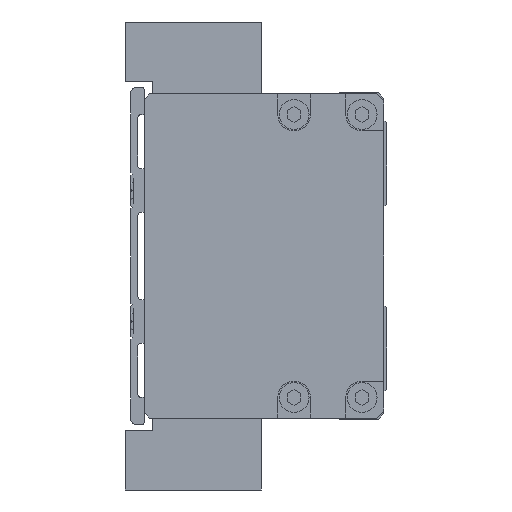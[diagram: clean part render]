
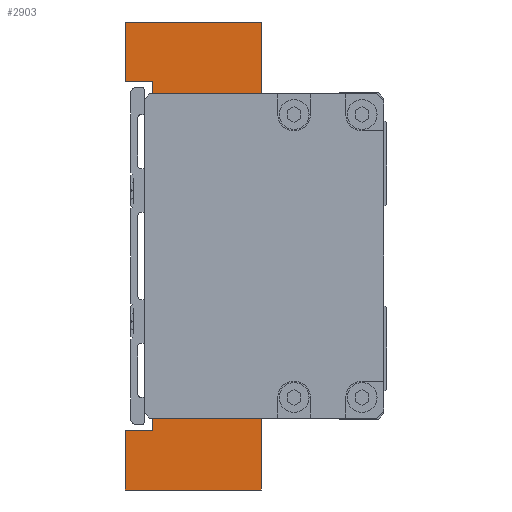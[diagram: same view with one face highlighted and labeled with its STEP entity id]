
A CAD part, left-side view. The second image highlights one B-rep face of the part: STEP entity #2903.
In plain terms, the highlighted planar face has unit normal (-1, 0, 0).
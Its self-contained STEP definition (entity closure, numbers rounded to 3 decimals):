
#180 = DIRECTION ( 'NONE',  ( 0., 0., -1. ) ) ;
#192 = ORIENTED_EDGE ( 'NONE', *, *, #7165, .F. ) ;
#601 = ORIENTED_EDGE ( 'NONE', *, *, #11513, .F. ) ;
#634 = ORIENTED_EDGE ( 'NONE', *, *, #23904, .T. ) ;
#881 = ORIENTED_EDGE ( 'NONE', *, *, #5717, .F. ) ;
#919 = DIRECTION ( 'NONE',  ( 0., -1., 0. ) ) ;
#1082 = DIRECTION ( 'NONE',  ( 1., 0., 0. ) ) ;
#1232 = ORIENTED_EDGE ( 'NONE', *, *, #18942, .F. ) ;
#1370 = DIRECTION ( 'NONE',  ( 0., -1., 0. ) ) ;
#1460 = VERTEX_POINT ( 'NONE', #17668 ) ;
#1872 = CARTESIAN_POINT ( 'NONE',  ( -77., 25., -43. ) ) ;
#1944 = EDGE_CURVE ( 'NONE', #9077, #16507, #5160, .T. ) ;
#2025 = DIRECTION ( 'NONE',  ( 0., -1., 0. ) ) ;
#2293 = DIRECTION ( 'NONE',  ( 0., -1., 0. ) ) ;
#2533 = LINE ( 'NONE', #5616, #24929 ) ;
#2539 = DIRECTION ( 'NONE',  ( 0., 1., 0. ) ) ;
#2561 = CARTESIAN_POINT ( 'NONE',  ( -77., 25., 43. ) ) ;
#2564 = DIRECTION ( 'NONE',  ( 0., 0., 1. ) ) ;
#2615 = DIRECTION ( 'NONE',  ( 0., -1., 0. ) ) ;
#2688 = VERTEX_POINT ( 'NONE', #24389 ) ;
#2693 = LINE ( 'NONE', #10700, #10220 ) ;
#2903 = ADVANCED_FACE ( 'NONE', ( #19281 ), #23487, .F. ) ;
#3149 = VERTEX_POINT ( 'NONE', #8440 ) ;
#3537 = DIRECTION ( 'NONE',  ( 0., 0., -1. ) ) ;
#3877 = CARTESIAN_POINT ( 'NONE',  ( -77., 5., 21. ) ) ;
#3962 = VERTEX_POINT ( 'NONE', #23979 ) ;
#4200 = CARTESIAN_POINT ( 'NONE',  ( -77., 0., -28. ) ) ;
#4305 = ORIENTED_EDGE ( 'NONE', *, *, #19172, .T. ) ;
#5160 = LINE ( 'NONE', #21825, #11434 ) ;
#5174 = VECTOR ( 'NONE', #2293, 1000. ) ;
#5201 = ORIENTED_EDGE ( 'NONE', *, *, #13155, .F. ) ;
#5616 = CARTESIAN_POINT ( 'NONE',  ( -77., 10., 21. ) ) ;
#5694 = CARTESIAN_POINT ( 'NONE',  ( -77., 10., 21. ) ) ;
#5717 = EDGE_CURVE ( 'NONE', #3962, #2688, #22277, .T. ) ;
#5719 = LINE ( 'NONE', #20189, #24011 ) ;
#5774 = LINE ( 'NONE', #19015, #12409 ) ;
#5834 = ORIENTED_EDGE ( 'NONE', *, *, #19022, .F. ) ;
#6485 = LINE ( 'NONE', #24862, #22577 ) ;
#6536 = VERTEX_POINT ( 'NONE', #8898 ) ;
#6540 = ORIENTED_EDGE ( 'NONE', *, *, #14546, .T. ) ;
#6593 = CARTESIAN_POINT ( 'NONE',  ( -77., 5., -28. ) ) ;
#6677 = DIRECTION ( 'NONE',  ( 0., 1., 0. ) ) ;
#6834 = DIRECTION ( 'NONE',  ( 0., 1., 0. ) ) ;
#7120 = VERTEX_POINT ( 'NONE', #2561 ) ;
#7165 = EDGE_CURVE ( 'NONE', #16507, #15431, #6485, .T. ) ;
#7682 = EDGE_CURVE ( 'NONE', #1460, #14643, #18446, .T. ) ;
#8440 = CARTESIAN_POINT ( 'NONE',  ( -77., 0., -43. ) ) ;
#8525 = DIRECTION ( 'NONE',  ( 0., 0., -1. ) ) ;
#8532 = CARTESIAN_POINT ( 'NONE',  ( -77., 20., -32. ) ) ;
#8539 = CARTESIAN_POINT ( 'NONE',  ( -77., 0., 43. ) ) ;
#8598 = CARTESIAN_POINT ( 'NONE',  ( -77., 5., -21. ) ) ;
#8807 = ORIENTED_EDGE ( 'NONE', *, *, #21676, .F. ) ;
#8898 = CARTESIAN_POINT ( 'NONE',  ( -77., 9., 21. ) ) ;
#8933 = ORIENTED_EDGE ( 'NONE', *, *, #17370, .F. ) ;
#9077 = VERTEX_POINT ( 'NONE', #20692 ) ;
#9807 = LINE ( 'NONE', #19286, #14587 ) ;
#9952 = EDGE_CURVE ( 'NONE', #25869, #25284, #5719, .T. ) ;
#9996 = CARTESIAN_POINT ( 'NONE',  ( -77., 20., 32. ) ) ;
#10010 = DIRECTION ( 'NONE',  ( 0., 0., 1. ) ) ;
#10164 = VECTOR ( 'NONE', #10010, 1000. ) ;
#10220 = VECTOR ( 'NONE', #919, 1000. ) ;
#10465 = CARTESIAN_POINT ( 'NONE',  ( -77., 25., -43. ) ) ;
#10549 = DIRECTION ( 'NONE',  ( 0., 0., 1. ) ) ;
#10694 = ORIENTED_EDGE ( 'NONE', *, *, #18059, .F. ) ;
#10700 = CARTESIAN_POINT ( 'NONE',  ( -77., 25., 43. ) ) ;
#10969 = CARTESIAN_POINT ( 'NONE',  ( -77., 10., -21. ) ) ;
#11051 = CARTESIAN_POINT ( 'NONE',  ( -77., 20., 32. ) ) ;
#11074 = ORIENTED_EDGE ( 'NONE', *, *, #14885, .F. ) ;
#11140 = AXIS2_PLACEMENT_3D ( 'NONE', #19573, #1082, #21595 ) ;
#11336 = CARTESIAN_POINT ( 'NONE',  ( -77., 10., 21. ) ) ;
#11434 = VECTOR ( 'NONE', #2025, 1000. ) ;
#11513 = EDGE_CURVE ( 'NONE', #17994, #12654, #20685, .T. ) ;
#11518 = CARTESIAN_POINT ( 'NONE',  ( -77., 0., -28. ) ) ;
#11788 = CARTESIAN_POINT ( 'NONE',  ( -77., 20., -32. ) ) ;
#12189 = VECTOR ( 'NONE', #6677, 1000. ) ;
#12409 = VECTOR ( 'NONE', #14976, 1000. ) ;
#12654 = VERTEX_POINT ( 'NONE', #18953 ) ;
#13151 = EDGE_CURVE ( 'NONE', #18348, #1460, #16489, .T. ) ;
#13155 = EDGE_CURVE ( 'NONE', #15431, #17797, #18703, .T. ) ;
#13771 = VECTOR ( 'NONE', #18753, 1000. ) ;
#14102 = CARTESIAN_POINT ( 'NONE',  ( -77., 25., 32. ) ) ;
#14315 = VECTOR ( 'NONE', #10549, 1000. ) ;
#14546 = EDGE_CURVE ( 'NONE', #9077, #16670, #9807, .T. ) ;
#14587 = VECTOR ( 'NONE', #21723, 1000. ) ;
#14643 = VERTEX_POINT ( 'NONE', #11788 ) ;
#14827 = VECTOR ( 'NONE', #3537, 1000. ) ;
#14885 = EDGE_CURVE ( 'NONE', #2688, #25869, #22126, .T. ) ;
#14898 = VECTOR ( 'NONE', #2539, 1000. ) ;
#14976 = DIRECTION ( 'NONE',  ( 0., -1., 0. ) ) ;
#15431 = VERTEX_POINT ( 'NONE', #24811 ) ;
#16263 = EDGE_LOOP ( 'NONE', ( #634, #4305, #19500, #11074, #881, #10694, #1232, #601, #5834, #23552, #18727, #8933, #25554, #5201, #192, #25032, #6540, #8807 ) ) ;
#16489 = LINE ( 'NONE', #10465, #20901 ) ;
#16507 = VERTEX_POINT ( 'NONE', #8598 ) ;
#16670 = VERTEX_POINT ( 'NONE', #10969 ) ;
#16682 = CARTESIAN_POINT ( 'NONE',  ( -77., 25., -32. ) ) ;
#17370 = EDGE_CURVE ( 'NONE', #3149, #18348, #23848, .T. ) ;
#17604 = VERTEX_POINT ( 'NONE', #5694 ) ;
#17668 = CARTESIAN_POINT ( 'NONE',  ( -77., 25., -32. ) ) ;
#17797 = VERTEX_POINT ( 'NONE', #4200 ) ;
#17994 = VERTEX_POINT ( 'NONE', #11051 ) ;
#18059 = EDGE_CURVE ( 'NONE', #7120, #3962, #2693, .T. ) ;
#18348 = VERTEX_POINT ( 'NONE', #1872 ) ;
#18376 = LINE ( 'NONE', #14102, #10164 ) ;
#18446 = LINE ( 'NONE', #16682, #25106 ) ;
#18469 = VECTOR ( 'NONE', #6834, 1000. ) ;
#18550 = CARTESIAN_POINT ( 'NONE',  ( -77., 0., 28. ) ) ;
#18553 = VECTOR ( 'NONE', #1370, 1000. ) ;
#18703 = LINE ( 'NONE', #6593, #5174 ) ;
#18727 = ORIENTED_EDGE ( 'NONE', *, *, #13151, .F. ) ;
#18753 = DIRECTION ( 'NONE',  ( 0., 0., -1. ) ) ;
#18924 = CARTESIAN_POINT ( 'NONE',  ( -77., 0., -43. ) ) ;
#18942 = EDGE_CURVE ( 'NONE', #12654, #7120, #18376, .T. ) ;
#18953 = CARTESIAN_POINT ( 'NONE',  ( -77., 25., 32. ) ) ;
#19015 = CARTESIAN_POINT ( 'NONE',  ( -77., 9., 21. ) ) ;
#19022 = EDGE_CURVE ( 'NONE', #14643, #17994, #22164, .T. ) ;
#19172 = EDGE_CURVE ( 'NONE', #6536, #25284, #5774, .T. ) ;
#19281 = FACE_OUTER_BOUND ( 'NONE', #16263, .T. ) ;
#19286 = CARTESIAN_POINT ( 'NONE',  ( -77., 9., -21. ) ) ;
#19500 = ORIENTED_EDGE ( 'NONE', *, *, #9952, .F. ) ;
#19573 = CARTESIAN_POINT ( 'NONE',  ( -77., 10., 0. ) ) ;
#20189 = CARTESIAN_POINT ( 'NONE',  ( -77., 5., 28. ) ) ;
#20685 = LINE ( 'NONE', #9996, #12189 ) ;
#20692 = CARTESIAN_POINT ( 'NONE',  ( -77., 9., -21. ) ) ;
#20901 = VECTOR ( 'NONE', #2564, 1000. ) ;
#21531 = EDGE_CURVE ( 'NONE', #17797, #3149, #23343, .T. ) ;
#21595 = DIRECTION ( 'NONE',  ( 0., 0., -1. ) ) ;
#21676 = EDGE_CURVE ( 'NONE', #17604, #16670, #2533, .T. ) ;
#21723 = DIRECTION ( 'NONE',  ( 0., 1., 0. ) ) ;
#21825 = CARTESIAN_POINT ( 'NONE',  ( -77., 9., -21. ) ) ;
#22126 = LINE ( 'NONE', #18550, #14898 ) ;
#22164 = LINE ( 'NONE', #8532, #14315 ) ;
#22277 = LINE ( 'NONE', #8539, #13771 ) ;
#22577 = VECTOR ( 'NONE', #8525, 1000. ) ;
#22680 = CARTESIAN_POINT ( 'NONE',  ( -77., 5., 28. ) ) ;
#23343 = LINE ( 'NONE', #11518, #14827 ) ;
#23487 = PLANE ( 'NONE',  #11140 ) ;
#23552 = ORIENTED_EDGE ( 'NONE', *, *, #7682, .F. ) ;
#23848 = LINE ( 'NONE', #18924, #18469 ) ;
#23864 = DIRECTION ( 'NONE',  ( 0., 0., -1. ) ) ;
#23904 = EDGE_CURVE ( 'NONE', #17604, #6536, #24919, .T. ) ;
#23979 = CARTESIAN_POINT ( 'NONE',  ( -77., 0., 43. ) ) ;
#24011 = VECTOR ( 'NONE', #180, 1000. ) ;
#24389 = CARTESIAN_POINT ( 'NONE',  ( -77., 0., 28. ) ) ;
#24811 = CARTESIAN_POINT ( 'NONE',  ( -77., 5., -28. ) ) ;
#24862 = CARTESIAN_POINT ( 'NONE',  ( -77., 5., -21. ) ) ;
#24919 = LINE ( 'NONE', #11336, #18553 ) ;
#24929 = VECTOR ( 'NONE', #23864, 1000. ) ;
#25032 = ORIENTED_EDGE ( 'NONE', *, *, #1944, .F. ) ;
#25106 = VECTOR ( 'NONE', #2615, 1000. ) ;
#25284 = VERTEX_POINT ( 'NONE', #3877 ) ;
#25554 = ORIENTED_EDGE ( 'NONE', *, *, #21531, .F. ) ;
#25869 = VERTEX_POINT ( 'NONE', #22680 ) ;
